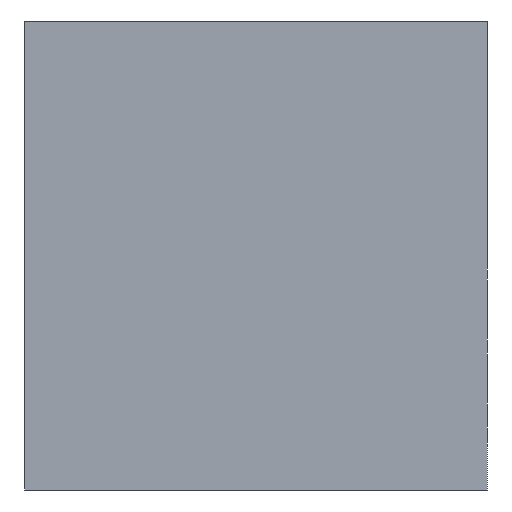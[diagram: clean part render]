
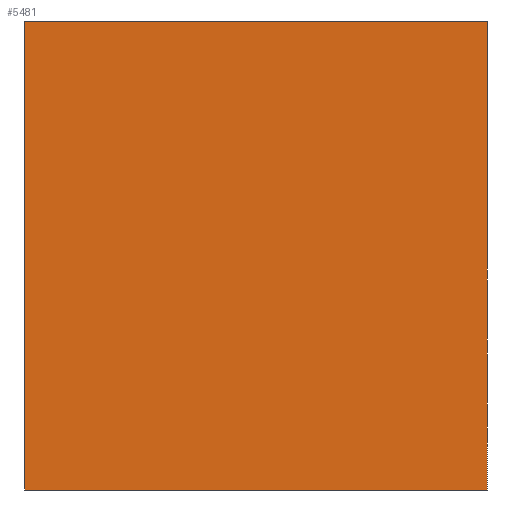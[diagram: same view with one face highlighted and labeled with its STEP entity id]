
A CAD part, left-side view. The second image highlights one B-rep face of the part: STEP entity #5481.
In plain terms, the highlighted planar face has unit normal (-1, 0, 0).
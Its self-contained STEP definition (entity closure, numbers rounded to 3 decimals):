
#442 = LINE ( 'NONE', #12935, #7837 ) ;
#714 = EDGE_CURVE ( 'NONE', #4506, #6555, #8423, .T. ) ;
#1860 = PLANE ( 'NONE',  #14154 ) ;
#1922 = DIRECTION ( 'NONE',  ( -1., 0., 0. ) ) ;
#1961 = DIRECTION ( 'NONE',  ( 0., 0., 1. ) ) ;
#2655 = CARTESIAN_POINT ( 'NONE',  ( 0., -19.75, -20.707 ) ) ;
#3882 = CARTESIAN_POINT ( 'NONE',  ( 0., 19.75, -20. ) ) ;
#4506 = VERTEX_POINT ( 'NONE', #12843 ) ;
#4862 = CARTESIAN_POINT ( 'NONE',  ( 0., 19.75, -20.707 ) ) ;
#5481 = ADVANCED_FACE ( 'NONE', ( #15750 ), #1860, .T. ) ;
#6555 = VERTEX_POINT ( 'NONE', #9675 ) ;
#6638 = DIRECTION ( 'NONE',  ( 0., 0., 1. ) ) ;
#7000 = EDGE_CURVE ( 'NONE', #4506, #17073, #442, .T. ) ;
#7837 = VECTOR ( 'NONE', #14330, 1000. ) ;
#8423 = LINE ( 'NONE', #2655, #9756 ) ;
#8562 = DIRECTION ( 'NONE',  ( 0., 1., 0. ) ) ;
#8983 = EDGE_CURVE ( 'NONE', #6555, #14650, #13638, .T. ) ;
#9131 = EDGE_LOOP ( 'NONE', ( #16339, #12780, #11085, #12415 ) ) ;
#9675 = CARTESIAN_POINT ( 'NONE',  ( 0., -19.75, 20. ) ) ;
#9756 = VECTOR ( 'NONE', #6638, 1000. ) ;
#9969 = CARTESIAN_POINT ( 'NONE',  ( 0., -20.457, 20. ) ) ;
#10676 = EDGE_CURVE ( 'NONE', #17073, #14650, #14247, .T. ) ;
#10750 = CARTESIAN_POINT ( 'NONE',  ( 0., 19.75, -20. ) ) ;
#11085 = ORIENTED_EDGE ( 'NONE', *, *, #714, .T. ) ;
#12197 = DIRECTION ( 'NONE',  ( 0., 0., 1. ) ) ;
#12415 = ORIENTED_EDGE ( 'NONE', *, *, #8983, .T. ) ;
#12745 = VECTOR ( 'NONE', #8562, 1000. ) ;
#12780 = ORIENTED_EDGE ( 'NONE', *, *, #7000, .F. ) ;
#12843 = CARTESIAN_POINT ( 'NONE',  ( 0., -19.75, -20. ) ) ;
#12935 = CARTESIAN_POINT ( 'NONE',  ( 0., -20.457, -20. ) ) ;
#13638 = LINE ( 'NONE', #9969, #12745 ) ;
#13787 = VECTOR ( 'NONE', #1961, 1000. ) ;
#14154 = AXIS2_PLACEMENT_3D ( 'NONE', #10750, #1922, #12197 ) ;
#14247 = LINE ( 'NONE', #4862, #13787 ) ;
#14330 = DIRECTION ( 'NONE',  ( 0., 1., 0. ) ) ;
#14650 = VERTEX_POINT ( 'NONE', #17004 ) ;
#15750 = FACE_OUTER_BOUND ( 'NONE', #9131, .T. ) ;
#16339 = ORIENTED_EDGE ( 'NONE', *, *, #10676, .F. ) ;
#17004 = CARTESIAN_POINT ( 'NONE',  ( 0., 19.75, 20. ) ) ;
#17073 = VERTEX_POINT ( 'NONE', #3882 ) ;
